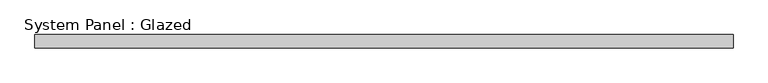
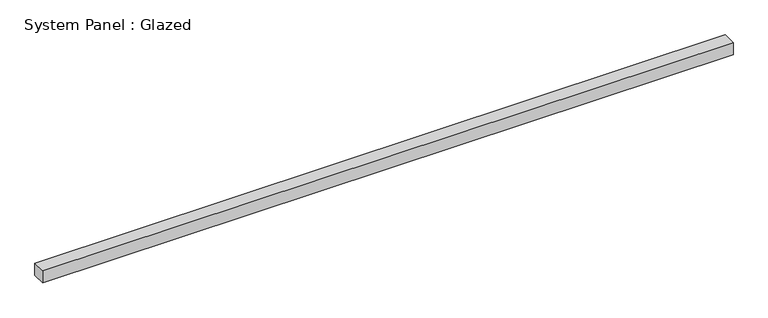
"""IFC4 building model written with IfcOpenShell, lengths in millimetres: plate geometry, System Panel : Glazed."""

from ifc_helpers import new_model, si_unit, origin, origin_with_axes, place, context, project, spatial, polyline, outline, extrude, source, transform, mapped, element, save


def system_panel_glazed_dad0aab0(model_context):
    return source(origin(), model_context, "Body", "SweptSolid", [
        extrude(outline(polyline([(656.4135118, -44.45), (-656.4135118, -44.45), (-656.4135118, -19.05), (656.4135118, -19.05), (656.4135118, -44.45)])), origin_with_axes(), (0.0, 0.0, 1.0), 24.0243608),
    ])


if __name__ == "__main__":
    model = new_model("IFC4")
    model_context = context("Model", 3, world=origin())
    ifc_project = project(units=[si_unit("LENGTHUNIT", "METRE", prefix="MILLI")], contexts=[model_context])
    site = spatial("IfcSite", under=ifc_project)
    building = spatial("IfcBuilding", under=site)
    placement = place(None, origin())
    system_panel_glazed_shape = system_panel_glazed_dad0aab0(model_context)
    element("IfcPlate", 1, ObjectType="System Panel : Glazed", at=placement, inside=building, context=model_context, shape_type="MappedRepresentation", body=[
        mapped(system_panel_glazed_shape, transform((0.0, 0.0, 0.0), x_axis=(1.0, 0.0, 0.0), y_axis=(0.0, 1.0, 0.0), z_axis=(0.0, 0.0, 1.0))),
    ])
    save(model, "model.ifc")
